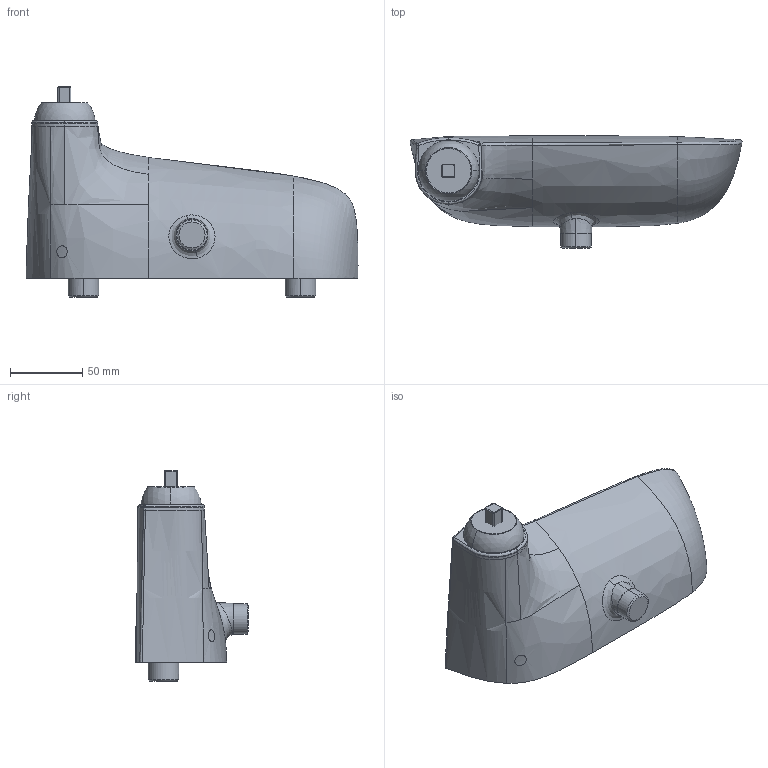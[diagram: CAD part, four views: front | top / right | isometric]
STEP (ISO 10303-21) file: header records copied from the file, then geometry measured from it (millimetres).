
FILE_DESCRIPTION (( 'STEP AP203' ), '1' );
FILE_NAME ('751901000025.STEP', '2018-11-07T06:55:08', ( '' ), ( '' ), 'SwSTEP 2.0', 'SolidWorks 2016', '' );
FILE_SCHEMA (( 'CONFIG_CONTROL_DESIGN' ));
Length unit declared in the file: millimetre
Products named in the file (1): 751901000025
Bounding box: 229.52 x 77.84 x 145.6 mm (x, y, z)
Volume: 915879.3 mm3; surface area: 79586.2 mm2
Topology: 5 solids, 5 shells, 181 faces, 418 edges, 242 vertices
Faces by surface type: bspline 63, cylinder 50, plane 32, torus 20, cone 8, sphere 8
Entity records: 11885 total; most frequent: CARTESIAN_POINT 8264, ORIENTED_EDGE 820, DIRECTION 641, EDGE_CURVE 410, AXIS2_PLACEMENT_3D 270, VERTEX_POINT 242, EDGE_LOOP 184, FACE_OUTER_BOUND 181
